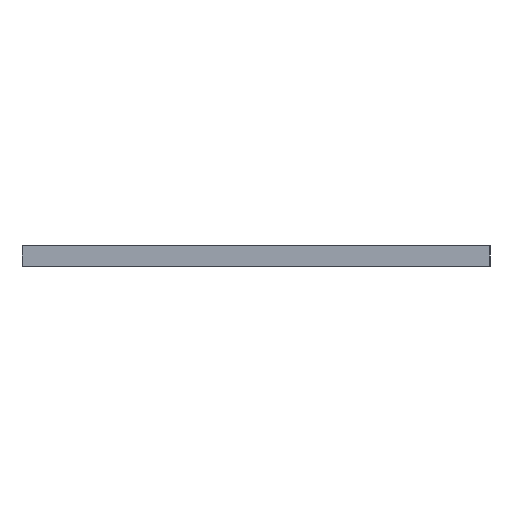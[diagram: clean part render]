
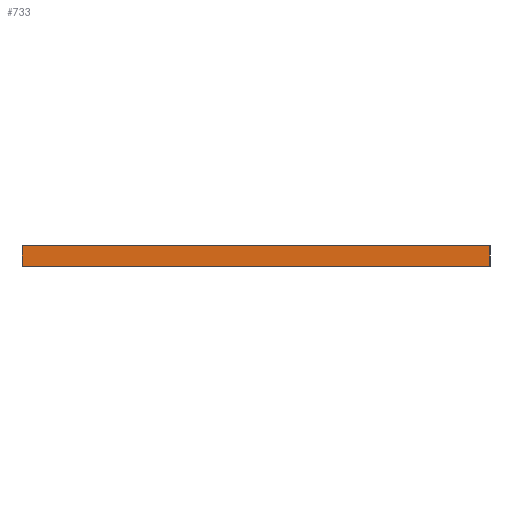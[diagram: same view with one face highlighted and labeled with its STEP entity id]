
A CAD part, left-side view. The second image highlights one B-rep face of the part: STEP entity #733.
In plain terms, the highlighted planar face has unit normal (-1, 0, 0).
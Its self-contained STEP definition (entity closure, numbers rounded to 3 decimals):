
#508 = EDGE_CURVE ( 'NONE', #551, #709, #2100, .T. ) ;
#551 = VERTEX_POINT ( 'NONE', #2065 ) ;
#673 = EDGE_LOOP ( 'NONE', ( #734, #735, #737, #738 ) ) ;
#702 = EDGE_CURVE ( 'NONE', #703, #704, #2207, .T. ) ;
#703 = VERTEX_POINT ( 'NONE', #2203 ) ;
#704 = VERTEX_POINT ( 'NONE', #2202 ) ;
#709 = VERTEX_POINT ( 'NONE', #2192 ) ;
#733 = ADVANCED_FACE ( 'NONE', ( #2334 ), #2333, .F. ) ;
#734 = ORIENTED_EDGE ( 'NONE', *, *, #702, .T. ) ;
#735 = ORIENTED_EDGE ( 'NONE', *, *, #736, .F. ) ;
#736 = EDGE_CURVE ( 'NONE', #709, #704, #2328, .T. ) ;
#737 = ORIENTED_EDGE ( 'NONE', *, *, #508, .F. ) ;
#738 = ORIENTED_EDGE ( 'NONE', *, *, #739, .T. ) ;
#739 = EDGE_CURVE ( 'NONE', #551, #703, #2324, .T. ) ;
#2065 = CARTESIAN_POINT ( 'NONE',  ( -110., 90., 8. ) ) ;
#2097 = DIRECTION ( 'NONE',  ( 0., -1., 0. ) ) ;
#2098 = VECTOR ( 'NONE', #2097, 1000. ) ;
#2099 = CARTESIAN_POINT ( 'NONE',  ( -110., 90., 8. ) ) ;
#2100 = LINE ( 'NONE', #2099, #2098 ) ;
#2192 = CARTESIAN_POINT ( 'NONE',  ( -110., -90., 8. ) ) ;
#2202 = CARTESIAN_POINT ( 'NONE',  ( -110., -90., 0. ) ) ;
#2203 = CARTESIAN_POINT ( 'NONE',  ( -110., 90., 0. ) ) ;
#2204 = DIRECTION ( 'NONE',  ( 0., -1., 0. ) ) ;
#2205 = VECTOR ( 'NONE', #2204, 1000. ) ;
#2206 = CARTESIAN_POINT ( 'NONE',  ( -110., 90., 0. ) ) ;
#2207 = LINE ( 'NONE', #2206, #2205 ) ;
#2321 = DIRECTION ( 'NONE',  ( 0., 0., -1. ) ) ;
#2322 = VECTOR ( 'NONE', #2321, 1000. ) ;
#2323 = CARTESIAN_POINT ( 'NONE',  ( -110., 90., 8. ) ) ;
#2324 = LINE ( 'NONE', #2323, #2322 ) ;
#2325 = DIRECTION ( 'NONE',  ( 0., 0., -1. ) ) ;
#2326 = VECTOR ( 'NONE', #2325, 1000. ) ;
#2327 = CARTESIAN_POINT ( 'NONE',  ( -110., -90., 8. ) ) ;
#2328 = LINE ( 'NONE', #2327, #2326 ) ;
#2329 = DIRECTION ( 'NONE',  ( 0., 0., -1. ) ) ;
#2330 = DIRECTION ( 'NONE',  ( 1., 0., 0. ) ) ;
#2331 = CARTESIAN_POINT ( 'NONE',  ( -110., 90., 8. ) ) ;
#2332 = AXIS2_PLACEMENT_3D ( 'NONE', #2331, #2330, #2329 ) ;
#2333 = PLANE ( 'NONE',  #2332 ) ;
#2334 = FACE_OUTER_BOUND ( 'NONE', #673, .T. ) ;
